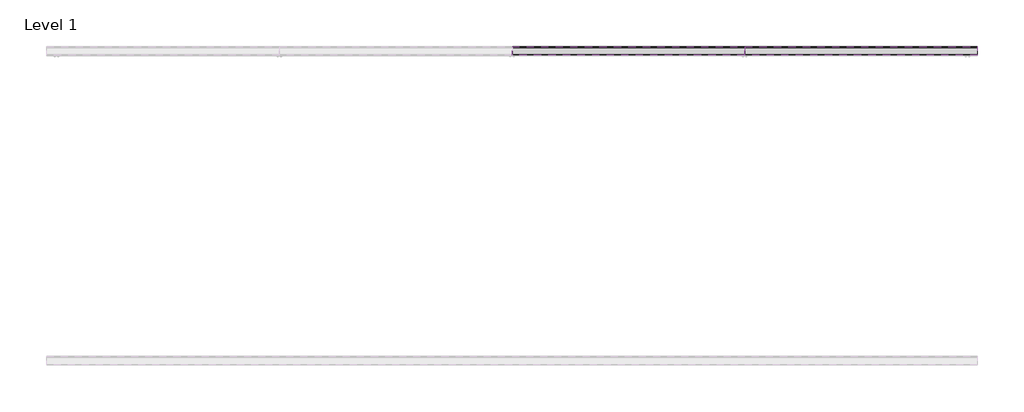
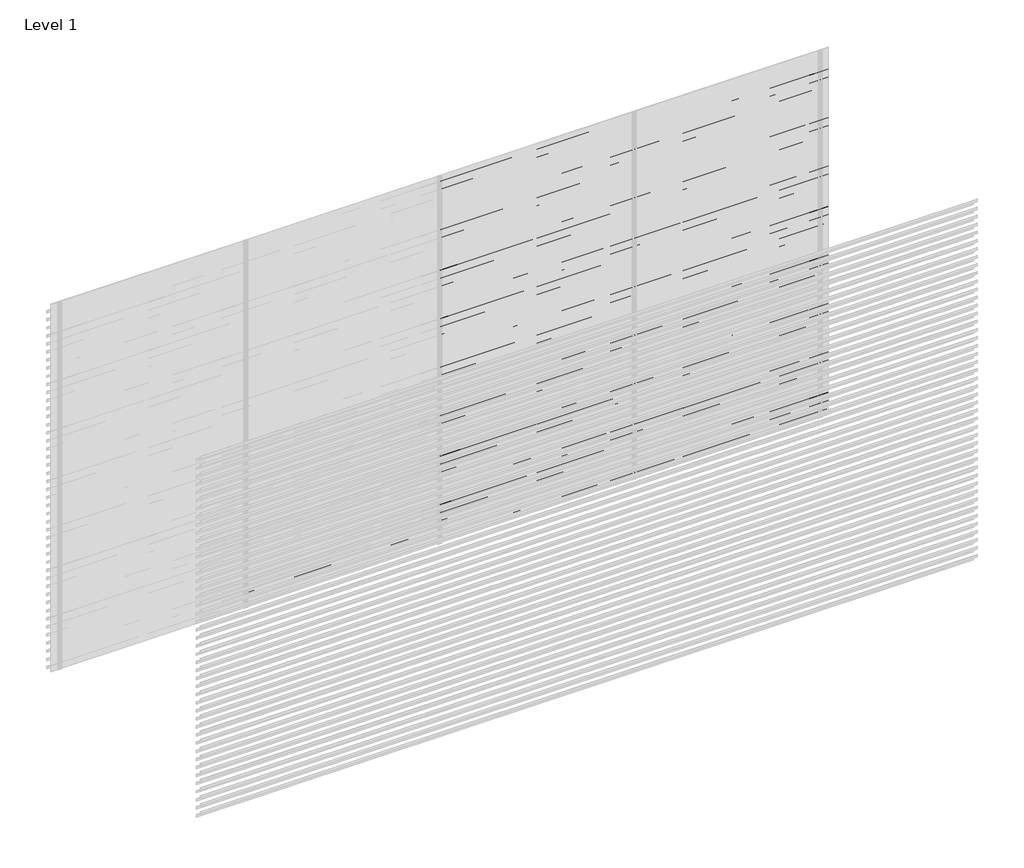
# One storey, part 25 of 25: 92 proxies.
"""IFC4 building model written with IfcOpenShell, lengths in millimetres."""

from ifc_helpers import new_model, si_unit, frame, origin, place, context, project, spatial, polyline, outline, extrude, element, save

model = new_model("IFC4")

# Units and contexts
model_context = context("Model", 3, world=origin())
ifc_project = project(units=[si_unit("LENGTHUNIT", "METRE", prefix="MILLI")], contexts=[model_context])

# Site, building, storey
site = spatial("IfcSite", under=ifc_project)
building = spatial("IfcBuilding", under=site)
storey = spatial("IfcBuildingStorey", under=building, Name="Level 1", Elevation=0.0)

# Proxies
placement = place(None, origin())
element("IfcBuildingElementProxy", 1, Name="Wall Sweeps", at=placement, inside=storey, context=model_context, shape_type="SweptSolid", body=[
    extrude(outline(polyline([(57.0, 75.5), (57.0, 55.5), (55.75, 56.2216933), (55.75, 74.7872415), (2.0, 112.3158044), (2.0, 132.0), (3.25, 132.0), (3.25, 113.0285629), (57.0, 75.5)])), frame((1500.0, 0.0, 0.0), z_axis=(1.0, 0.0, 0.0), x_axis=(0.0, 1.0, 0.0)), (0.0, 0.0, 1.0), 1500.0),
])
element("IfcBuildingElementProxy", 2, Name="Wall Sweeps", at=placement, inside=storey, context=model_context, shape_type="SweptSolid", body=[
    extrude(outline(polyline([(57.0, 9.5), (57.0, -10.5), (55.75, -9.7783067), (55.75, 8.7872415), (2.0, 46.3158044), (2.0, 66.0), (3.25, 66.0), (3.25, 47.0285629), (57.0, 9.5)])), frame((1500.0, 0.0, 0.0), z_axis=(1.0, 0.0, 0.0), x_axis=(0.0, 1.0, 0.0)), (0.0, 0.0, 1.0), 1500.0),
])
element("IfcBuildingElementProxy", 3, Name="Wall Sweeps", at=placement, inside=storey, context=model_context, shape_type="SweptSolid", body=[
    extrude(outline(polyline([(57.0, 2913.5), (57.0, 2893.5), (55.75, 2894.2216933), (55.75, 2912.7872415), (2.0, 2950.3158044), (2.0, 2970.0), (3.25, 2970.0), (3.25, 2951.0285629), (57.0, 2913.5)])), frame((3000.0, 0.0, 0.0), z_axis=(1.0, 0.0, 0.0), x_axis=(0.0, 1.0, 0.0)), (0.0, 0.0, 1.0), 1500.0),
])
element("IfcBuildingElementProxy", 4, Name="Wall Sweeps", at=placement, inside=storey, context=model_context, shape_type="SweptSolid", body=[
    extrude(outline(polyline([(57.0, 2847.5), (57.0, 2827.5), (55.75, 2828.2216933), (55.75, 2846.7872415), (2.0, 2884.3158044), (2.0, 2904.0), (3.25, 2904.0), (3.25, 2885.0285629), (57.0, 2847.5)])), frame((3000.0, 0.0, 0.0), z_axis=(1.0, 0.0, 0.0), x_axis=(0.0, 1.0, 0.0)), (0.0, 0.0, 1.0), 1500.0),
])
element("IfcBuildingElementProxy", 5, Name="Wall Sweeps", at=placement, inside=storey, context=model_context, shape_type="SweptSolid", body=[
    extrude(outline(polyline([(57.0, 2781.5), (57.0, 2761.5), (55.75, 2762.2216933), (55.75, 2780.7872415), (2.0, 2818.3158044), (2.0, 2838.0), (3.25, 2838.0), (3.25, 2819.0285629), (57.0, 2781.5)])), frame((3000.0, 0.0, 0.0), z_axis=(1.0, 0.0, 0.0), x_axis=(0.0, 1.0, 0.0)), (0.0, 0.0, 1.0), 1500.0),
])
element("IfcBuildingElementProxy", 6, Name="Wall Sweeps", at=placement, inside=storey, context=model_context, shape_type="SweptSolid", body=[
    extrude(outline(polyline([(57.0, 2715.5), (57.0, 2695.5), (55.75, 2696.2216933), (55.75, 2714.7872415), (2.0, 2752.3158044), (2.0, 2772.0), (3.25, 2772.0), (3.25, 2753.0285629), (57.0, 2715.5)])), frame((3000.0, 0.0, 0.0), z_axis=(1.0, 0.0, 0.0), x_axis=(0.0, 1.0, 0.0)), (0.0, 0.0, 1.0), 1500.0),
])
element("IfcBuildingElementProxy", 7, Name="Wall Sweeps", at=placement, inside=storey, context=model_context, shape_type="SweptSolid", body=[
    extrude(outline(polyline([(57.0, 2649.5), (57.0, 2629.5), (55.75, 2630.2216933), (55.75, 2648.7872415), (2.0, 2686.3158044), (2.0, 2706.0), (3.25, 2706.0), (3.25, 2687.0285629), (57.0, 2649.5)])), frame((3000.0, 0.0, 0.0), z_axis=(1.0, 0.0, 0.0), x_axis=(0.0, 1.0, 0.0)), (0.0, 0.0, 1.0), 1500.0),
])
element("IfcBuildingElementProxy", 8, Name="Wall Sweeps", at=placement, inside=storey, context=model_context, shape_type="SweptSolid", body=[
    extrude(outline(polyline([(57.0, 2583.5), (57.0, 2563.5), (55.75, 2564.2216933), (55.75, 2582.7872415), (2.0, 2620.3158044), (2.0, 2640.0), (3.25, 2640.0), (3.25, 2621.0285629), (57.0, 2583.5)])), frame((3000.0, 0.0, 0.0), z_axis=(1.0, 0.0, 0.0), x_axis=(0.0, 1.0, 0.0)), (0.0, 0.0, 1.0), 1500.0),
])
element("IfcBuildingElementProxy", 9, Name="Wall Sweeps", at=placement, inside=storey, context=model_context, shape_type="SweptSolid", body=[
    extrude(outline(polyline([(57.0, 2517.5), (57.0, 2497.5), (55.75, 2498.2216933), (55.75, 2516.7872415), (2.0, 2554.3158044), (2.0, 2574.0), (3.25, 2574.0), (3.25, 2555.0285629), (57.0, 2517.5)])), frame((3000.0, 0.0, 0.0), z_axis=(1.0, 0.0, 0.0), x_axis=(0.0, 1.0, 0.0)), (0.0, 0.0, 1.0), 1500.0),
])
element("IfcBuildingElementProxy", 10, Name="Wall Sweeps", at=placement, inside=storey, context=model_context, shape_type="SweptSolid", body=[
    extrude(outline(polyline([(57.0, 2451.5), (57.0, 2431.5), (55.75, 2432.2216933), (55.75, 2450.7872415), (2.0, 2488.3158044), (2.0, 2508.0), (3.25, 2508.0), (3.25, 2489.0285629), (57.0, 2451.5)])), frame((3000.0, 0.0, 0.0), z_axis=(1.0, 0.0, 0.0), x_axis=(0.0, 1.0, 0.0)), (0.0, 0.0, 1.0), 1500.0),
])
element("IfcBuildingElementProxy", 11, Name="Wall Sweeps", at=placement, inside=storey, context=model_context, shape_type="SweptSolid", body=[
    extrude(outline(polyline([(57.0, 2385.5), (57.0, 2365.5), (55.75, 2366.2216933), (55.75, 2384.7872415), (2.0, 2422.3158044), (2.0, 2442.0), (3.25, 2442.0), (3.25, 2423.0285629), (57.0, 2385.5)])), frame((3000.0, 0.0, 0.0), z_axis=(1.0, 0.0, 0.0), x_axis=(0.0, 1.0, 0.0)), (0.0, 0.0, 1.0), 1500.0),
])
element("IfcBuildingElementProxy", 12, Name="Wall Sweeps", at=placement, inside=storey, context=model_context, shape_type="SweptSolid", body=[
    extrude(outline(polyline([(57.0, 2319.5), (57.0, 2299.5), (55.75, 2300.2216933), (55.75, 2318.7872415), (2.0, 2356.3158044), (2.0, 2376.0), (3.25, 2376.0), (3.25, 2357.0285629), (57.0, 2319.5)])), frame((3000.0, 0.0, 0.0), z_axis=(1.0, 0.0, 0.0), x_axis=(0.0, 1.0, 0.0)), (0.0, 0.0, 1.0), 1500.0),
])
element("IfcBuildingElementProxy", 13, Name="Wall Sweeps", at=placement, inside=storey, context=model_context, shape_type="SweptSolid", body=[
    extrude(outline(polyline([(57.0, 2253.5), (57.0, 2233.5), (55.75, 2234.2216933), (55.75, 2252.7872415), (2.0, 2290.3158044), (2.0, 2310.0), (3.25, 2310.0), (3.25, 2291.0285629), (57.0, 2253.5)])), frame((3000.0, 0.0, 0.0), z_axis=(1.0, 0.0, 0.0), x_axis=(0.0, 1.0, 0.0)), (0.0, 0.0, 1.0), 1500.0),
])
element("IfcBuildingElementProxy", 14, Name="Wall Sweeps", at=placement, inside=storey, context=model_context, shape_type="SweptSolid", body=[
    extrude(outline(polyline([(57.0, 2187.5), (57.0, 2167.5), (55.75, 2168.2216933), (55.75, 2186.7872415), (2.0, 2224.3158044), (2.0, 2244.0), (3.25, 2244.0), (3.25, 2225.0285629), (57.0, 2187.5)])), frame((3000.0, 0.0, 0.0), z_axis=(1.0, 0.0, 0.0), x_axis=(0.0, 1.0, 0.0)), (0.0, 0.0, 1.0), 1500.0),
])
element("IfcBuildingElementProxy", 15, Name="Wall Sweeps", at=placement, inside=storey, context=model_context, shape_type="SweptSolid", body=[
    extrude(outline(polyline([(57.0, 2121.5), (57.0, 2101.5), (55.75, 2102.2216933), (55.75, 2120.7872415), (2.0, 2158.3158044), (2.0, 2178.0), (3.25, 2178.0), (3.25, 2159.0285629), (57.0, 2121.5)])), frame((3000.0, 0.0, 0.0), z_axis=(1.0, 0.0, 0.0), x_axis=(0.0, 1.0, 0.0)), (0.0, 0.0, 1.0), 1500.0),
])
element("IfcBuildingElementProxy", 16, Name="Wall Sweeps", at=placement, inside=storey, context=model_context, shape_type="SweptSolid", body=[
    extrude(outline(polyline([(57.0, 2055.5), (57.0, 2035.5), (55.75, 2036.2216933), (55.75, 2054.7872415), (2.0, 2092.3158044), (2.0, 2112.0), (3.25, 2112.0), (3.25, 2093.0285629), (57.0, 2055.5)])), frame((3000.0, 0.0, 0.0), z_axis=(1.0, 0.0, 0.0), x_axis=(0.0, 1.0, 0.0)), (0.0, 0.0, 1.0), 1500.0),
])
element("IfcBuildingElementProxy", 17, Name="Wall Sweeps", at=placement, inside=storey, context=model_context, shape_type="SweptSolid", body=[
    extrude(outline(polyline([(57.0, 1989.5), (57.0, 1969.5), (55.75, 1970.2216933), (55.75, 1988.7872415), (2.0, 2026.3158044), (2.0, 2046.0), (3.25, 2046.0), (3.25, 2027.0285629), (57.0, 1989.5)])), frame((3000.0, 0.0, 0.0), z_axis=(1.0, 0.0, 0.0), x_axis=(0.0, 1.0, 0.0)), (0.0, 0.0, 1.0), 1500.0),
])
element("IfcBuildingElementProxy", 18, Name="Wall Sweeps", at=placement, inside=storey, context=model_context, shape_type="SweptSolid", body=[
    extrude(outline(polyline([(57.0, 1923.5), (57.0, 1903.5), (55.75, 1904.2216933), (55.75, 1922.7872415), (2.0, 1960.3158044), (2.0, 1980.0), (3.25, 1980.0), (3.25, 1961.0285629), (57.0, 1923.5)])), frame((3000.0, 0.0, 0.0), z_axis=(1.0, 0.0, 0.0), x_axis=(0.0, 1.0, 0.0)), (0.0, 0.0, 1.0), 1500.0),
])
element("IfcBuildingElementProxy", 19, Name="Wall Sweeps", at=placement, inside=storey, context=model_context, shape_type="SweptSolid", body=[
    extrude(outline(polyline([(57.0, 1857.5), (57.0, 1837.5), (55.75, 1838.2216933), (55.75, 1856.7872415), (2.0, 1894.3158044), (2.0, 1914.0), (3.25, 1914.0), (3.25, 1895.0285629), (57.0, 1857.5)])), frame((3000.0, 0.0, 0.0), z_axis=(1.0, 0.0, 0.0), x_axis=(0.0, 1.0, 0.0)), (0.0, 0.0, 1.0), 1500.0),
])
element("IfcBuildingElementProxy", 20, Name="Wall Sweeps", at=placement, inside=storey, context=model_context, shape_type="SweptSolid", body=[
    extrude(outline(polyline([(57.0, 1791.5), (57.0, 1771.5), (55.75, 1772.2216933), (55.75, 1790.7872415), (2.0, 1828.3158044), (2.0, 1848.0), (3.25, 1848.0), (3.25, 1829.0285629), (57.0, 1791.5)])), frame((3000.0, 0.0, 0.0), z_axis=(1.0, 0.0, 0.0), x_axis=(0.0, 1.0, 0.0)), (0.0, 0.0, 1.0), 1500.0),
])
element("IfcBuildingElementProxy", 21, Name="Wall Sweeps", at=placement, inside=storey, context=model_context, shape_type="SweptSolid", body=[
    extrude(outline(polyline([(57.0, 1725.5), (57.0, 1705.5), (55.75, 1706.2216933), (55.75, 1724.7872415), (2.0, 1762.3158044), (2.0, 1782.0), (3.25, 1782.0), (3.25, 1763.0285629), (57.0, 1725.5)])), frame((3000.0, 0.0, 0.0), z_axis=(1.0, 0.0, 0.0), x_axis=(0.0, 1.0, 0.0)), (0.0, 0.0, 1.0), 1500.0),
])
element("IfcBuildingElementProxy", 22, Name="Wall Sweeps", at=placement, inside=storey, context=model_context, shape_type="SweptSolid", body=[
    extrude(outline(polyline([(57.0, 1659.5), (57.0, 1639.5), (55.75, 1640.2216933), (55.75, 1658.7872415), (2.0, 1696.3158044), (2.0, 1716.0), (3.25, 1716.0), (3.25, 1697.0285629), (57.0, 1659.5)])), frame((3000.0, 0.0, 0.0), z_axis=(1.0, 0.0, 0.0), x_axis=(0.0, 1.0, 0.0)), (0.0, 0.0, 1.0), 1500.0),
])
element("IfcBuildingElementProxy", 23, Name="Wall Sweeps", at=placement, inside=storey, context=model_context, shape_type="SweptSolid", body=[
    extrude(outline(polyline([(57.0, 1593.5), (57.0, 1573.5), (55.75, 1574.2216933), (55.75, 1592.7872415), (2.0, 1630.3158044), (2.0, 1650.0), (3.25, 1650.0), (3.25, 1631.0285629), (57.0, 1593.5)])), frame((3000.0, 0.0, 0.0), z_axis=(1.0, 0.0, 0.0), x_axis=(0.0, 1.0, 0.0)), (0.0, 0.0, 1.0), 1500.0),
])
element("IfcBuildingElementProxy", 24, Name="Wall Sweeps", at=placement, inside=storey, context=model_context, shape_type="SweptSolid", body=[
    extrude(outline(polyline([(57.0, 1527.5), (57.0, 1507.5), (55.75, 1508.2216933), (55.75, 1526.7872415), (2.0, 1564.3158044), (2.0, 1584.0), (3.25, 1584.0), (3.25, 1565.0285629), (57.0, 1527.5)])), frame((3000.0, 0.0, 0.0), z_axis=(1.0, 0.0, 0.0), x_axis=(0.0, 1.0, 0.0)), (0.0, 0.0, 1.0), 1500.0),
])
element("IfcBuildingElementProxy", 25, Name="Wall Sweeps", at=placement, inside=storey, context=model_context, shape_type="SweptSolid", body=[
    extrude(outline(polyline([(57.0, 1461.5), (57.0, 1441.5), (55.75, 1442.2216933), (55.75, 1460.7872415), (2.0, 1498.3158044), (2.0, 1518.0), (3.25, 1518.0), (3.25, 1499.0285629), (57.0, 1461.5)])), frame((3000.0, 0.0, 0.0), z_axis=(1.0, 0.0, 0.0), x_axis=(0.0, 1.0, 0.0)), (0.0, 0.0, 1.0), 1500.0),
])
element("IfcBuildingElementProxy", 26, Name="Wall Sweeps", at=placement, inside=storey, context=model_context, shape_type="SweptSolid", body=[
    extrude(outline(polyline([(57.0, 1395.5), (57.0, 1375.5), (55.75, 1376.2216933), (55.75, 1394.7872415), (2.0, 1432.3158044), (2.0, 1452.0), (3.25, 1452.0), (3.25, 1433.0285629), (57.0, 1395.5)])), frame((3000.0, 0.0, 0.0), z_axis=(1.0, 0.0, 0.0), x_axis=(0.0, 1.0, 0.0)), (0.0, 0.0, 1.0), 1500.0),
])
element("IfcBuildingElementProxy", 27, Name="Wall Sweeps", at=placement, inside=storey, context=model_context, shape_type="SweptSolid", body=[
    extrude(outline(polyline([(57.0, 1329.5), (57.0, 1309.5), (55.75, 1310.2216933), (55.75, 1328.7872415), (2.0, 1366.3158044), (2.0, 1386.0), (3.25, 1386.0), (3.25, 1367.0285629), (57.0, 1329.5)])), frame((3000.0, 0.0, 0.0), z_axis=(1.0, 0.0, 0.0), x_axis=(0.0, 1.0, 0.0)), (0.0, 0.0, 1.0), 1500.0),
])
element("IfcBuildingElementProxy", 28, Name="Wall Sweeps", at=placement, inside=storey, context=model_context, shape_type="SweptSolid", body=[
    extrude(outline(polyline([(57.0, 1263.5), (57.0, 1243.5), (55.75, 1244.2216933), (55.75, 1262.7872415), (2.0, 1300.3158044), (2.0, 1320.0), (3.25, 1320.0), (3.25, 1301.0285629), (57.0, 1263.5)])), frame((3000.0, 0.0, 0.0), z_axis=(1.0, 0.0, 0.0), x_axis=(0.0, 1.0, 0.0)), (0.0, 0.0, 1.0), 1500.0),
])
element("IfcBuildingElementProxy", 29, Name="Wall Sweeps", at=placement, inside=storey, context=model_context, shape_type="SweptSolid", body=[
    extrude(outline(polyline([(57.0, 1197.5), (57.0, 1177.5), (55.75, 1178.2216933), (55.75, 1196.7872415), (2.0, 1234.3158044), (2.0, 1254.0), (3.25, 1254.0), (3.25, 1235.0285629), (57.0, 1197.5)])), frame((3000.0, 0.0, 0.0), z_axis=(1.0, 0.0, 0.0), x_axis=(0.0, 1.0, 0.0)), (0.0, 0.0, 1.0), 1500.0),
])
element("IfcBuildingElementProxy", 30, Name="Wall Sweeps", at=placement, inside=storey, context=model_context, shape_type="SweptSolid", body=[
    extrude(outline(polyline([(57.0, 1131.5), (57.0, 1111.5), (55.75, 1112.2216933), (55.75, 1130.7872415), (2.0, 1168.3158044), (2.0, 1188.0), (3.25, 1188.0), (3.25, 1169.0285629), (57.0, 1131.5)])), frame((3000.0, 0.0, 0.0), z_axis=(1.0, 0.0, 0.0), x_axis=(0.0, 1.0, 0.0)), (0.0, 0.0, 1.0), 1500.0),
])
element("IfcBuildingElementProxy", 31, Name="Wall Sweeps", at=placement, inside=storey, context=model_context, shape_type="SweptSolid", body=[
    extrude(outline(polyline([(57.0, 1065.5), (57.0, 1045.5), (55.75, 1046.2216933), (55.75, 1064.7872415), (2.0, 1102.3158044), (2.0, 1122.0), (3.25, 1122.0), (3.25, 1103.0285629), (57.0, 1065.5)])), frame((3000.0, 0.0, 0.0), z_axis=(1.0, 0.0, 0.0), x_axis=(0.0, 1.0, 0.0)), (0.0, 0.0, 1.0), 1500.0),
])
element("IfcBuildingElementProxy", 32, Name="Wall Sweeps", at=placement, inside=storey, context=model_context, shape_type="SweptSolid", body=[
    extrude(outline(polyline([(57.0, 999.5), (57.0, 979.5), (55.75, 980.2216933), (55.75, 998.7872415), (2.0, 1036.3158044), (2.0, 1056.0), (3.25, 1056.0), (3.25, 1037.0285629), (57.0, 999.5)])), frame((3000.0, 0.0, 0.0), z_axis=(1.0, 0.0, 0.0), x_axis=(0.0, 1.0, 0.0)), (0.0, 0.0, 1.0), 1500.0),
])
element("IfcBuildingElementProxy", 33, Name="Wall Sweeps", at=placement, inside=storey, context=model_context, shape_type="SweptSolid", body=[
    extrude(outline(polyline([(57.0, 933.5), (57.0, 913.5), (55.75, 914.2216933), (55.75, 932.7872415), (2.0, 970.3158044), (2.0, 990.0), (3.25, 990.0), (3.25, 971.0285629), (57.0, 933.5)])), frame((3000.0, 0.0, 0.0), z_axis=(1.0, 0.0, 0.0), x_axis=(0.0, 1.0, 0.0)), (0.0, 0.0, 1.0), 1500.0),
])
element("IfcBuildingElementProxy", 34, Name="Wall Sweeps", at=placement, inside=storey, context=model_context, shape_type="SweptSolid", body=[
    extrude(outline(polyline([(57.0, 867.5), (57.0, 847.5), (55.75, 848.2216933), (55.75, 866.7872415), (2.0, 904.3158044), (2.0, 924.0), (3.25, 924.0), (3.25, 905.0285629), (57.0, 867.5)])), frame((3000.0, 0.0, 0.0), z_axis=(1.0, 0.0, 0.0), x_axis=(0.0, 1.0, 0.0)), (0.0, 0.0, 1.0), 1500.0),
])
element("IfcBuildingElementProxy", 35, Name="Wall Sweeps", at=placement, inside=storey, context=model_context, shape_type="SweptSolid", body=[
    extrude(outline(polyline([(57.0, 801.5), (57.0, 781.5), (55.75, 782.2216933), (55.75, 800.7872415), (2.0, 838.3158044), (2.0, 858.0), (3.25, 858.0), (3.25, 839.0285629), (57.0, 801.5)])), frame((3000.0, 0.0, 0.0), z_axis=(1.0, 0.0, 0.0), x_axis=(0.0, 1.0, 0.0)), (0.0, 0.0, 1.0), 1500.0),
])
element("IfcBuildingElementProxy", 36, Name="Wall Sweeps", at=placement, inside=storey, context=model_context, shape_type="SweptSolid", body=[
    extrude(outline(polyline([(57.0, 735.5), (57.0, 715.5), (55.75, 716.2216933), (55.75, 734.7872415), (2.0, 772.3158044), (2.0, 792.0), (3.25, 792.0), (3.25, 773.0285629), (57.0, 735.5)])), frame((3000.0, 0.0, 0.0), z_axis=(1.0, 0.0, 0.0), x_axis=(0.0, 1.0, 0.0)), (0.0, 0.0, 1.0), 1500.0),
])
element("IfcBuildingElementProxy", 37, Name="Wall Sweeps", at=placement, inside=storey, context=model_context, shape_type="SweptSolid", body=[
    extrude(outline(polyline([(57.0, 669.5), (57.0, 649.5), (55.75, 650.2216933), (55.75, 668.7872415), (2.0, 706.3158044), (2.0, 726.0), (3.25, 726.0), (3.25, 707.0285629), (57.0, 669.5)])), frame((3000.0, 0.0, 0.0), z_axis=(1.0, 0.0, 0.0), x_axis=(0.0, 1.0, 0.0)), (0.0, 0.0, 1.0), 1500.0),
])
element("IfcBuildingElementProxy", 38, Name="Wall Sweeps", at=placement, inside=storey, context=model_context, shape_type="SweptSolid", body=[
    extrude(outline(polyline([(57.0, 603.5), (57.0, 583.5), (55.75, 584.2216933), (55.75, 602.7872415), (2.0, 640.3158044), (2.0, 660.0), (3.25, 660.0), (3.25, 641.0285629), (57.0, 603.5)])), frame((3000.0, 0.0, 0.0), z_axis=(1.0, 0.0, 0.0), x_axis=(0.0, 1.0, 0.0)), (0.0, 0.0, 1.0), 1500.0),
])
element("IfcBuildingElementProxy", 39, Name="Wall Sweeps", at=placement, inside=storey, context=model_context, shape_type="SweptSolid", body=[
    extrude(outline(polyline([(57.0, 537.5), (57.0, 517.5), (55.75, 518.2216933), (55.75, 536.7872415), (2.0, 574.3158044), (2.0, 594.0), (3.25, 594.0), (3.25, 575.0285629), (57.0, 537.5)])), frame((3000.0, 0.0, 0.0), z_axis=(1.0, 0.0, 0.0), x_axis=(0.0, 1.0, 0.0)), (0.0, 0.0, 1.0), 1500.0),
])
element("IfcBuildingElementProxy", 40, Name="Wall Sweeps", at=placement, inside=storey, context=model_context, shape_type="SweptSolid", body=[
    extrude(outline(polyline([(57.0, 471.5), (57.0, 451.5), (55.75, 452.2216933), (55.75, 470.7872415), (2.0, 508.3158044), (2.0, 528.0), (3.25, 528.0), (3.25, 509.0285629), (57.0, 471.5)])), frame((3000.0, 0.0, 0.0), z_axis=(1.0, 0.0, 0.0), x_axis=(0.0, 1.0, 0.0)), (0.0, 0.0, 1.0), 1500.0),
])
element("IfcBuildingElementProxy", 41, Name="Wall Sweeps", at=placement, inside=storey, context=model_context, shape_type="SweptSolid", body=[
    extrude(outline(polyline([(57.0, 405.5), (57.0, 385.5), (55.75, 386.2216933), (55.75, 404.7872415), (2.0, 442.3158044), (2.0, 462.0), (3.25, 462.0), (3.25, 443.0285629), (57.0, 405.5)])), frame((3000.0, 0.0, 0.0), z_axis=(1.0, 0.0, 0.0), x_axis=(0.0, 1.0, 0.0)), (0.0, 0.0, 1.0), 1500.0),
])
element("IfcBuildingElementProxy", 42, Name="Wall Sweeps", at=placement, inside=storey, context=model_context, shape_type="SweptSolid", body=[
    extrude(outline(polyline([(57.0, 339.5), (57.0, 319.5), (55.75, 320.2216933), (55.75, 338.7872415), (2.0, 376.3158044), (2.0, 396.0), (3.25, 396.0), (3.25, 377.0285629), (57.0, 339.5)])), frame((3000.0, 0.0, 0.0), z_axis=(1.0, 0.0, 0.0), x_axis=(0.0, 1.0, 0.0)), (0.0, 0.0, 1.0), 1500.0),
])
element("IfcBuildingElementProxy", 43, Name="Wall Sweeps", at=placement, inside=storey, context=model_context, shape_type="SweptSolid", body=[
    extrude(outline(polyline([(57.0, 273.5), (57.0, 253.5), (55.75, 254.2216933), (55.75, 272.7872415), (2.0, 310.3158044), (2.0, 330.0), (3.25, 330.0), (3.25, 311.0285629), (57.0, 273.5)])), frame((3000.0, 0.0, 0.0), z_axis=(1.0, 0.0, 0.0), x_axis=(0.0, 1.0, 0.0)), (0.0, 0.0, 1.0), 1500.0),
])
element("IfcBuildingElementProxy", 44, Name="Wall Sweeps", at=placement, inside=storey, context=model_context, shape_type="SweptSolid", body=[
    extrude(outline(polyline([(57.0, 207.5), (57.0, 187.5), (55.75, 188.2216933), (55.75, 206.7872415), (2.0, 244.3158044), (2.0, 264.0), (3.25, 264.0), (3.25, 245.0285629), (57.0, 207.5)])), frame((3000.0, 0.0, 0.0), z_axis=(1.0, 0.0, 0.0), x_axis=(0.0, 1.0, 0.0)), (0.0, 0.0, 1.0), 1500.0),
])
element("IfcBuildingElementProxy", 45, Name="Wall Sweeps", at=placement, inside=storey, context=model_context, shape_type="SweptSolid", body=[
    extrude(outline(polyline([(57.0, 141.5), (57.0, 121.5), (55.75, 122.2216933), (55.75, 140.7872415), (2.0, 178.3158044), (2.0, 198.0), (3.25, 198.0), (3.25, 179.0285629), (57.0, 141.5)])), frame((3000.0, 0.0, 0.0), z_axis=(1.0, 0.0, 0.0), x_axis=(0.0, 1.0, 0.0)), (0.0, 0.0, 1.0), 1500.0),
])
element("IfcBuildingElementProxy", 46, Name="Wall Sweeps", at=placement, inside=storey, context=model_context, shape_type="SweptSolid", body=[
    extrude(outline(polyline([(57.0, 75.5), (57.0, 55.5), (55.75, 56.2216933), (55.75, 74.7872415), (2.0, 112.3158044), (2.0, 132.0), (3.25, 132.0), (3.25, 113.0285629), (57.0, 75.5)])), frame((3000.0, 0.0, 0.0), z_axis=(1.0, 0.0, 0.0), x_axis=(0.0, 1.0, 0.0)), (0.0, 0.0, 1.0), 1500.0),
])
element("IfcBuildingElementProxy", 47, Name="Wall Sweeps", at=placement, inside=storey, context=model_context, shape_type="SweptSolid", body=[
    extrude(outline(polyline([(57.0, 9.5), (57.0, -10.5), (55.75, -9.7783067), (55.75, 8.7872415), (2.0, 46.3158044), (2.0, 66.0), (3.25, 66.0), (3.25, 47.0285629), (57.0, 9.5)])), frame((3000.0, 0.0, 0.0), z_axis=(1.0, 0.0, 0.0), x_axis=(0.0, 1.0, 0.0)), (0.0, 0.0, 1.0), 1500.0),
])
element("IfcBuildingElementProxy", 48, Name="Wall Sweeps", at=placement, inside=storey, context=model_context, shape_type="SweptSolid", body=[
    extrude(outline(polyline([(57.0, 2913.5), (57.0, 2893.5), (55.75, 2894.2216933), (55.75, 2912.7872415), (2.0, 2950.3158044), (2.0, 2970.0), (3.25, 2970.0), (3.25, 2951.0285629), (57.0, 2913.5)])), frame((4500.0, 0.0, 0.0), z_axis=(1.0, 0.0, 0.0), x_axis=(0.0, 1.0, 0.0)), (0.0, 0.0, 1.0), 1500.0),
])
element("IfcBuildingElementProxy", 49, Name="Wall Sweeps", at=placement, inside=storey, context=model_context, shape_type="SweptSolid", body=[
    extrude(outline(polyline([(57.0, 2847.5), (57.0, 2827.5), (55.75, 2828.2216933), (55.75, 2846.7872415), (2.0, 2884.3158044), (2.0, 2904.0), (3.25, 2904.0), (3.25, 2885.0285629), (57.0, 2847.5)])), frame((4500.0, 0.0, 0.0), z_axis=(1.0, 0.0, 0.0), x_axis=(0.0, 1.0, 0.0)), (0.0, 0.0, 1.0), 1500.0),
])
element("IfcBuildingElementProxy", 50, Name="Wall Sweeps", at=placement, inside=storey, context=model_context, shape_type="SweptSolid", body=[
    extrude(outline(polyline([(57.0, 2781.5), (57.0, 2761.5), (55.75, 2762.2216933), (55.75, 2780.7872415), (2.0, 2818.3158044), (2.0, 2838.0), (3.25, 2838.0), (3.25, 2819.0285629), (57.0, 2781.5)])), frame((4500.0, 0.0, 0.0), z_axis=(1.0, 0.0, 0.0), x_axis=(0.0, 1.0, 0.0)), (0.0, 0.0, 1.0), 1500.0),
])
element("IfcBuildingElementProxy", 51, Name="Wall Sweeps", at=placement, inside=storey, context=model_context, shape_type="SweptSolid", body=[
    extrude(outline(polyline([(57.0, 2715.5), (57.0, 2695.5), (55.75, 2696.2216933), (55.75, 2714.7872415), (2.0, 2752.3158044), (2.0, 2772.0), (3.25, 2772.0), (3.25, 2753.0285629), (57.0, 2715.5)])), frame((4500.0, 0.0, 0.0), z_axis=(1.0, 0.0, 0.0), x_axis=(0.0, 1.0, 0.0)), (0.0, 0.0, 1.0), 1500.0),
])
element("IfcBuildingElementProxy", 52, Name="Wall Sweeps", at=placement, inside=storey, context=model_context, shape_type="SweptSolid", body=[
    extrude(outline(polyline([(57.0, 2649.5), (57.0, 2629.5), (55.75, 2630.2216933), (55.75, 2648.7872415), (2.0, 2686.3158044), (2.0, 2706.0), (3.25, 2706.0), (3.25, 2687.0285629), (57.0, 2649.5)])), frame((4500.0, 0.0, 0.0), z_axis=(1.0, 0.0, 0.0), x_axis=(0.0, 1.0, 0.0)), (0.0, 0.0, 1.0), 1500.0),
])
element("IfcBuildingElementProxy", 53, Name="Wall Sweeps", at=placement, inside=storey, context=model_context, shape_type="SweptSolid", body=[
    extrude(outline(polyline([(57.0, 2583.5), (57.0, 2563.5), (55.75, 2564.2216933), (55.75, 2582.7872415), (2.0, 2620.3158044), (2.0, 2640.0), (3.25, 2640.0), (3.25, 2621.0285629), (57.0, 2583.5)])), frame((4500.0, 0.0, 0.0), z_axis=(1.0, 0.0, 0.0), x_axis=(0.0, 1.0, 0.0)), (0.0, 0.0, 1.0), 1500.0),
])
element("IfcBuildingElementProxy", 54, Name="Wall Sweeps", at=placement, inside=storey, context=model_context, shape_type="SweptSolid", body=[
    extrude(outline(polyline([(57.0, 2517.5), (57.0, 2497.5), (55.75, 2498.2216933), (55.75, 2516.7872415), (2.0, 2554.3158044), (2.0, 2574.0), (3.25, 2574.0), (3.25, 2555.0285629), (57.0, 2517.5)])), frame((4500.0, 0.0, 0.0), z_axis=(1.0, 0.0, 0.0), x_axis=(0.0, 1.0, 0.0)), (0.0, 0.0, 1.0), 1500.0),
])
element("IfcBuildingElementProxy", 55, Name="Wall Sweeps", at=placement, inside=storey, context=model_context, shape_type="SweptSolid", body=[
    extrude(outline(polyline([(57.0, 2451.5), (57.0, 2431.5), (55.75, 2432.2216933), (55.75, 2450.7872415), (2.0, 2488.3158044), (2.0, 2508.0), (3.25, 2508.0), (3.25, 2489.0285629), (57.0, 2451.5)])), frame((4500.0, 0.0, 0.0), z_axis=(1.0, 0.0, 0.0), x_axis=(0.0, 1.0, 0.0)), (0.0, 0.0, 1.0), 1500.0),
])
element("IfcBuildingElementProxy", 56, Name="Wall Sweeps", at=placement, inside=storey, context=model_context, shape_type="SweptSolid", body=[
    extrude(outline(polyline([(57.0, 2385.5), (57.0, 2365.5), (55.75, 2366.2216933), (55.75, 2384.7872415), (2.0, 2422.3158044), (2.0, 2442.0), (3.25, 2442.0), (3.25, 2423.0285629), (57.0, 2385.5)])), frame((4500.0, 0.0, 0.0), z_axis=(1.0, 0.0, 0.0), x_axis=(0.0, 1.0, 0.0)), (0.0, 0.0, 1.0), 1500.0),
])
element("IfcBuildingElementProxy", 57, Name="Wall Sweeps", at=placement, inside=storey, context=model_context, shape_type="SweptSolid", body=[
    extrude(outline(polyline([(57.0, 2319.5), (57.0, 2299.5), (55.75, 2300.2216933), (55.75, 2318.7872415), (2.0, 2356.3158044), (2.0, 2376.0), (3.25, 2376.0), (3.25, 2357.0285629), (57.0, 2319.5)])), frame((4500.0, 0.0, 0.0), z_axis=(1.0, 0.0, 0.0), x_axis=(0.0, 1.0, 0.0)), (0.0, 0.0, 1.0), 1500.0),
])
element("IfcBuildingElementProxy", 58, Name="Wall Sweeps", at=placement, inside=storey, context=model_context, shape_type="SweptSolid", body=[
    extrude(outline(polyline([(57.0, 2253.5), (57.0, 2233.5), (55.75, 2234.2216933), (55.75, 2252.7872415), (2.0, 2290.3158044), (2.0, 2310.0), (3.25, 2310.0), (3.25, 2291.0285629), (57.0, 2253.5)])), frame((4500.0, 0.0, 0.0), z_axis=(1.0, 0.0, 0.0), x_axis=(0.0, 1.0, 0.0)), (0.0, 0.0, 1.0), 1500.0),
])
element("IfcBuildingElementProxy", 59, Name="Wall Sweeps", at=placement, inside=storey, context=model_context, shape_type="SweptSolid", body=[
    extrude(outline(polyline([(57.0, 2187.5), (57.0, 2167.5), (55.75, 2168.2216933), (55.75, 2186.7872415), (2.0, 2224.3158044), (2.0, 2244.0), (3.25, 2244.0), (3.25, 2225.0285629), (57.0, 2187.5)])), frame((4500.0, 0.0, 0.0), z_axis=(1.0, 0.0, 0.0), x_axis=(0.0, 1.0, 0.0)), (0.0, 0.0, 1.0), 1500.0),
])
element("IfcBuildingElementProxy", 60, Name="Wall Sweeps", at=placement, inside=storey, context=model_context, shape_type="SweptSolid", body=[
    extrude(outline(polyline([(57.0, 2121.5), (57.0, 2101.5), (55.75, 2102.2216933), (55.75, 2120.7872415), (2.0, 2158.3158044), (2.0, 2178.0), (3.25, 2178.0), (3.25, 2159.0285629), (57.0, 2121.5)])), frame((4500.0, 0.0, 0.0), z_axis=(1.0, 0.0, 0.0), x_axis=(0.0, 1.0, 0.0)), (0.0, 0.0, 1.0), 1500.0),
])
element("IfcBuildingElementProxy", 61, Name="Wall Sweeps", at=placement, inside=storey, context=model_context, shape_type="SweptSolid", body=[
    extrude(outline(polyline([(57.0, 2055.5), (57.0, 2035.5), (55.75, 2036.2216933), (55.75, 2054.7872415), (2.0, 2092.3158044), (2.0, 2112.0), (3.25, 2112.0), (3.25, 2093.0285629), (57.0, 2055.5)])), frame((4500.0, 0.0, 0.0), z_axis=(1.0, 0.0, 0.0), x_axis=(0.0, 1.0, 0.0)), (0.0, 0.0, 1.0), 1500.0),
])
element("IfcBuildingElementProxy", 62, Name="Wall Sweeps", at=placement, inside=storey, context=model_context, shape_type="SweptSolid", body=[
    extrude(outline(polyline([(57.0, 1989.5), (57.0, 1969.5), (55.75, 1970.2216933), (55.75, 1988.7872415), (2.0, 2026.3158044), (2.0, 2046.0), (3.25, 2046.0), (3.25, 2027.0285629), (57.0, 1989.5)])), frame((4500.0, 0.0, 0.0), z_axis=(1.0, 0.0, 0.0), x_axis=(0.0, 1.0, 0.0)), (0.0, 0.0, 1.0), 1500.0),
])
element("IfcBuildingElementProxy", 63, Name="Wall Sweeps", at=placement, inside=storey, context=model_context, shape_type="SweptSolid", body=[
    extrude(outline(polyline([(57.0, 1923.5), (57.0, 1903.5), (55.75, 1904.2216933), (55.75, 1922.7872415), (2.0, 1960.3158044), (2.0, 1980.0), (3.25, 1980.0), (3.25, 1961.0285629), (57.0, 1923.5)])), frame((4500.0, 0.0, 0.0), z_axis=(1.0, 0.0, 0.0), x_axis=(0.0, 1.0, 0.0)), (0.0, 0.0, 1.0), 1500.0),
])
element("IfcBuildingElementProxy", 64, Name="Wall Sweeps", at=placement, inside=storey, context=model_context, shape_type="SweptSolid", body=[
    extrude(outline(polyline([(57.0, 1857.5), (57.0, 1837.5), (55.75, 1838.2216933), (55.75, 1856.7872415), (2.0, 1894.3158044), (2.0, 1914.0), (3.25, 1914.0), (3.25, 1895.0285629), (57.0, 1857.5)])), frame((4500.0, 0.0, 0.0), z_axis=(1.0, 0.0, 0.0), x_axis=(0.0, 1.0, 0.0)), (0.0, 0.0, 1.0), 1500.0),
])
element("IfcBuildingElementProxy", 65, Name="Wall Sweeps", at=placement, inside=storey, context=model_context, shape_type="SweptSolid", body=[
    extrude(outline(polyline([(57.0, 1791.5), (57.0, 1771.5), (55.75, 1772.2216933), (55.75, 1790.7872415), (2.0, 1828.3158044), (2.0, 1848.0), (3.25, 1848.0), (3.25, 1829.0285629), (57.0, 1791.5)])), frame((4500.0, 0.0, 0.0), z_axis=(1.0, 0.0, 0.0), x_axis=(0.0, 1.0, 0.0)), (0.0, 0.0, 1.0), 1500.0),
])
element("IfcBuildingElementProxy", 66, Name="Wall Sweeps", at=placement, inside=storey, context=model_context, shape_type="SweptSolid", body=[
    extrude(outline(polyline([(57.0, 1725.5), (57.0, 1705.5), (55.75, 1706.2216933), (55.75, 1724.7872415), (2.0, 1762.3158044), (2.0, 1782.0), (3.25, 1782.0), (3.25, 1763.0285629), (57.0, 1725.5)])), frame((4500.0, 0.0, 0.0), z_axis=(1.0, 0.0, 0.0), x_axis=(0.0, 1.0, 0.0)), (0.0, 0.0, 1.0), 1500.0),
])
element("IfcBuildingElementProxy", 67, Name="Wall Sweeps", at=placement, inside=storey, context=model_context, shape_type="SweptSolid", body=[
    extrude(outline(polyline([(57.0, 1659.5), (57.0, 1639.5), (55.75, 1640.2216933), (55.75, 1658.7872415), (2.0, 1696.3158044), (2.0, 1716.0), (3.25, 1716.0), (3.25, 1697.0285629), (57.0, 1659.5)])), frame((4500.0, 0.0, 0.0), z_axis=(1.0, 0.0, 0.0), x_axis=(0.0, 1.0, 0.0)), (0.0, 0.0, 1.0), 1500.0),
])
element("IfcBuildingElementProxy", 68, Name="Wall Sweeps", at=placement, inside=storey, context=model_context, shape_type="SweptSolid", body=[
    extrude(outline(polyline([(57.0, 1593.5), (57.0, 1573.5), (55.75, 1574.2216933), (55.75, 1592.7872415), (2.0, 1630.3158044), (2.0, 1650.0), (3.25, 1650.0), (3.25, 1631.0285629), (57.0, 1593.5)])), frame((4500.0, 0.0, 0.0), z_axis=(1.0, 0.0, 0.0), x_axis=(0.0, 1.0, 0.0)), (0.0, 0.0, 1.0), 1500.0),
])
element("IfcBuildingElementProxy", 69, Name="Wall Sweeps", at=placement, inside=storey, context=model_context, shape_type="SweptSolid", body=[
    extrude(outline(polyline([(57.0, 1527.5), (57.0, 1507.5), (55.75, 1508.2216933), (55.75, 1526.7872415), (2.0, 1564.3158044), (2.0, 1584.0), (3.25, 1584.0), (3.25, 1565.0285629), (57.0, 1527.5)])), frame((4500.0, 0.0, 0.0), z_axis=(1.0, 0.0, 0.0), x_axis=(0.0, 1.0, 0.0)), (0.0, 0.0, 1.0), 1500.0),
])
element("IfcBuildingElementProxy", 70, Name="Wall Sweeps", at=placement, inside=storey, context=model_context, shape_type="SweptSolid", body=[
    extrude(outline(polyline([(57.0, 1461.5), (57.0, 1441.5), (55.75, 1442.2216933), (55.75, 1460.7872415), (2.0, 1498.3158044), (2.0, 1518.0), (3.25, 1518.0), (3.25, 1499.0285629), (57.0, 1461.5)])), frame((4500.0, 0.0, 0.0), z_axis=(1.0, 0.0, 0.0), x_axis=(0.0, 1.0, 0.0)), (0.0, 0.0, 1.0), 1500.0),
])
element("IfcBuildingElementProxy", 71, Name="Wall Sweeps", at=placement, inside=storey, context=model_context, shape_type="SweptSolid", body=[
    extrude(outline(polyline([(57.0, 1395.5), (57.0, 1375.5), (55.75, 1376.2216933), (55.75, 1394.7872415), (2.0, 1432.3158044), (2.0, 1452.0), (3.25, 1452.0), (3.25, 1433.0285629), (57.0, 1395.5)])), frame((4500.0, 0.0, 0.0), z_axis=(1.0, 0.0, 0.0), x_axis=(0.0, 1.0, 0.0)), (0.0, 0.0, 1.0), 1500.0),
])
element("IfcBuildingElementProxy", 72, Name="Wall Sweeps", at=placement, inside=storey, context=model_context, shape_type="SweptSolid", body=[
    extrude(outline(polyline([(57.0, 1329.5), (57.0, 1309.5), (55.75, 1310.2216933), (55.75, 1328.7872415), (2.0, 1366.3158044), (2.0, 1386.0), (3.25, 1386.0), (3.25, 1367.0285629), (57.0, 1329.5)])), frame((4500.0, 0.0, 0.0), z_axis=(1.0, 0.0, 0.0), x_axis=(0.0, 1.0, 0.0)), (0.0, 0.0, 1.0), 1500.0),
])
element("IfcBuildingElementProxy", 73, Name="Wall Sweeps", at=placement, inside=storey, context=model_context, shape_type="SweptSolid", body=[
    extrude(outline(polyline([(57.0, 1263.5), (57.0, 1243.5), (55.75, 1244.2216933), (55.75, 1262.7872415), (2.0, 1300.3158044), (2.0, 1320.0), (3.25, 1320.0), (3.25, 1301.0285629), (57.0, 1263.5)])), frame((4500.0, 0.0, 0.0), z_axis=(1.0, 0.0, 0.0), x_axis=(0.0, 1.0, 0.0)), (0.0, 0.0, 1.0), 1500.0),
])
element("IfcBuildingElementProxy", 74, Name="Wall Sweeps", at=placement, inside=storey, context=model_context, shape_type="SweptSolid", body=[
    extrude(outline(polyline([(57.0, 1197.5), (57.0, 1177.5), (55.75, 1178.2216933), (55.75, 1196.7872415), (2.0, 1234.3158044), (2.0, 1254.0), (3.25, 1254.0), (3.25, 1235.0285629), (57.0, 1197.5)])), frame((4500.0, 0.0, 0.0), z_axis=(1.0, 0.0, 0.0), x_axis=(0.0, 1.0, 0.0)), (0.0, 0.0, 1.0), 1500.0),
])
element("IfcBuildingElementProxy", 75, Name="Wall Sweeps", at=placement, inside=storey, context=model_context, shape_type="SweptSolid", body=[
    extrude(outline(polyline([(57.0, 1131.5), (57.0, 1111.5), (55.75, 1112.2216933), (55.75, 1130.7872415), (2.0, 1168.3158044), (2.0, 1188.0), (3.25, 1188.0), (3.25, 1169.0285629), (57.0, 1131.5)])), frame((4500.0, 0.0, 0.0), z_axis=(1.0, 0.0, 0.0), x_axis=(0.0, 1.0, 0.0)), (0.0, 0.0, 1.0), 1500.0),
])
element("IfcBuildingElementProxy", 76, Name="Wall Sweeps", at=placement, inside=storey, context=model_context, shape_type="SweptSolid", body=[
    extrude(outline(polyline([(57.0, 1065.5), (57.0, 1045.5), (55.75, 1046.2216933), (55.75, 1064.7872415), (2.0, 1102.3158044), (2.0, 1122.0), (3.25, 1122.0), (3.25, 1103.0285629), (57.0, 1065.5)])), frame((4500.0, 0.0, 0.0), z_axis=(1.0, 0.0, 0.0), x_axis=(0.0, 1.0, 0.0)), (0.0, 0.0, 1.0), 1500.0),
])
element("IfcBuildingElementProxy", 77, Name="Wall Sweeps", at=placement, inside=storey, context=model_context, shape_type="SweptSolid", body=[
    extrude(outline(polyline([(57.0, 999.5), (57.0, 979.5), (55.75, 980.2216933), (55.75, 998.7872415), (2.0, 1036.3158044), (2.0, 1056.0), (3.25, 1056.0), (3.25, 1037.0285629), (57.0, 999.5)])), frame((4500.0, 0.0, 0.0), z_axis=(1.0, 0.0, 0.0), x_axis=(0.0, 1.0, 0.0)), (0.0, 0.0, 1.0), 1500.0),
])
element("IfcBuildingElementProxy", 78, Name="Wall Sweeps", at=placement, inside=storey, context=model_context, shape_type="SweptSolid", body=[
    extrude(outline(polyline([(57.0, 933.5), (57.0, 913.5), (55.75, 914.2216933), (55.75, 932.7872415), (2.0, 970.3158044), (2.0, 990.0), (3.25, 990.0), (3.25, 971.0285629), (57.0, 933.5)])), frame((4500.0, 0.0, 0.0), z_axis=(1.0, 0.0, 0.0), x_axis=(0.0, 1.0, 0.0)), (0.0, 0.0, 1.0), 1500.0),
])
element("IfcBuildingElementProxy", 79, Name="Wall Sweeps", at=placement, inside=storey, context=model_context, shape_type="SweptSolid", body=[
    extrude(outline(polyline([(57.0, 867.5), (57.0, 847.5), (55.75, 848.2216933), (55.75, 866.7872415), (2.0, 904.3158044), (2.0, 924.0), (3.25, 924.0), (3.25, 905.0285629), (57.0, 867.5)])), frame((4500.0, 0.0, 0.0), z_axis=(1.0, 0.0, 0.0), x_axis=(0.0, 1.0, 0.0)), (0.0, 0.0, 1.0), 1500.0),
])
element("IfcBuildingElementProxy", 80, Name="Wall Sweeps", at=placement, inside=storey, context=model_context, shape_type="SweptSolid", body=[
    extrude(outline(polyline([(57.0, 801.5), (57.0, 781.5), (55.75, 782.2216933), (55.75, 800.7872415), (2.0, 838.3158044), (2.0, 858.0), (3.25, 858.0), (3.25, 839.0285629), (57.0, 801.5)])), frame((4500.0, 0.0, 0.0), z_axis=(1.0, 0.0, 0.0), x_axis=(0.0, 1.0, 0.0)), (0.0, 0.0, 1.0), 1500.0),
])
element("IfcBuildingElementProxy", 81, Name="Wall Sweeps", at=placement, inside=storey, context=model_context, shape_type="SweptSolid", body=[
    extrude(outline(polyline([(57.0, 735.5), (57.0, 715.5), (55.75, 716.2216933), (55.75, 734.7872415), (2.0, 772.3158044), (2.0, 792.0), (3.25, 792.0), (3.25, 773.0285629), (57.0, 735.5)])), frame((4500.0, 0.0, 0.0), z_axis=(1.0, 0.0, 0.0), x_axis=(0.0, 1.0, 0.0)), (0.0, 0.0, 1.0), 1500.0),
])
element("IfcBuildingElementProxy", 82, Name="Wall Sweeps", at=placement, inside=storey, context=model_context, shape_type="SweptSolid", body=[
    extrude(outline(polyline([(57.0, 669.5), (57.0, 649.5), (55.75, 650.2216933), (55.75, 668.7872415), (2.0, 706.3158044), (2.0, 726.0), (3.25, 726.0), (3.25, 707.0285629), (57.0, 669.5)])), frame((4500.0, 0.0, 0.0), z_axis=(1.0, 0.0, 0.0), x_axis=(0.0, 1.0, 0.0)), (0.0, 0.0, 1.0), 1500.0),
])
element("IfcBuildingElementProxy", 83, Name="Wall Sweeps", at=placement, inside=storey, context=model_context, shape_type="SweptSolid", body=[
    extrude(outline(polyline([(57.0, 603.5), (57.0, 583.5), (55.75, 584.2216933), (55.75, 602.7872415), (2.0, 640.3158044), (2.0, 660.0), (3.25, 660.0), (3.25, 641.0285629), (57.0, 603.5)])), frame((4500.0, 0.0, 0.0), z_axis=(1.0, 0.0, 0.0), x_axis=(0.0, 1.0, 0.0)), (0.0, 0.0, 1.0), 1500.0),
])
element("IfcBuildingElementProxy", 84, Name="Wall Sweeps", at=placement, inside=storey, context=model_context, shape_type="SweptSolid", body=[
    extrude(outline(polyline([(57.0, 537.5), (57.0, 517.5), (55.75, 518.2216933), (55.75, 536.7872415), (2.0, 574.3158044), (2.0, 594.0), (3.25, 594.0), (3.25, 575.0285629), (57.0, 537.5)])), frame((4500.0, 0.0, 0.0), z_axis=(1.0, 0.0, 0.0), x_axis=(0.0, 1.0, 0.0)), (0.0, 0.0, 1.0), 1500.0),
])
element("IfcBuildingElementProxy", 85, Name="Wall Sweeps", at=placement, inside=storey, context=model_context, shape_type="SweptSolid", body=[
    extrude(outline(polyline([(57.0, 471.5), (57.0, 451.5), (55.75, 452.2216933), (55.75, 470.7872415), (2.0, 508.3158044), (2.0, 528.0), (3.25, 528.0), (3.25, 509.0285629), (57.0, 471.5)])), frame((4500.0, 0.0, 0.0), z_axis=(1.0, 0.0, 0.0), x_axis=(0.0, 1.0, 0.0)), (0.0, 0.0, 1.0), 1500.0),
])
element("IfcBuildingElementProxy", 86, Name="Wall Sweeps", at=placement, inside=storey, context=model_context, shape_type="SweptSolid", body=[
    extrude(outline(polyline([(57.0, 405.5), (57.0, 385.5), (55.75, 386.2216933), (55.75, 404.7872415), (2.0, 442.3158044), (2.0, 462.0), (3.25, 462.0), (3.25, 443.0285629), (57.0, 405.5)])), frame((4500.0, 0.0, 0.0), z_axis=(1.0, 0.0, 0.0), x_axis=(0.0, 1.0, 0.0)), (0.0, 0.0, 1.0), 1500.0),
])
element("IfcBuildingElementProxy", 87, Name="Wall Sweeps", at=placement, inside=storey, context=model_context, shape_type="SweptSolid", body=[
    extrude(outline(polyline([(57.0, 339.5), (57.0, 319.5), (55.75, 320.2216933), (55.75, 338.7872415), (2.0, 376.3158044), (2.0, 396.0), (3.25, 396.0), (3.25, 377.0285629), (57.0, 339.5)])), frame((4500.0, 0.0, 0.0), z_axis=(1.0, 0.0, 0.0), x_axis=(0.0, 1.0, 0.0)), (0.0, 0.0, 1.0), 1500.0),
])
element("IfcBuildingElementProxy", 88, Name="Wall Sweeps", at=placement, inside=storey, context=model_context, shape_type="SweptSolid", body=[
    extrude(outline(polyline([(57.0, 273.5), (57.0, 253.5), (55.75, 254.2216933), (55.75, 272.7872415), (2.0, 310.3158044), (2.0, 330.0), (3.25, 330.0), (3.25, 311.0285629), (57.0, 273.5)])), frame((4500.0, 0.0, 0.0), z_axis=(1.0, 0.0, 0.0), x_axis=(0.0, 1.0, 0.0)), (0.0, 0.0, 1.0), 1500.0),
])
element("IfcBuildingElementProxy", 89, Name="Wall Sweeps", at=placement, inside=storey, context=model_context, shape_type="SweptSolid", body=[
    extrude(outline(polyline([(57.0, 207.5), (57.0, 187.5), (55.75, 188.2216933), (55.75, 206.7872415), (2.0, 244.3158044), (2.0, 264.0), (3.25, 264.0), (3.25, 245.0285629), (57.0, 207.5)])), frame((4500.0, 0.0, 0.0), z_axis=(1.0, 0.0, 0.0), x_axis=(0.0, 1.0, 0.0)), (0.0, 0.0, 1.0), 1500.0),
])
element("IfcBuildingElementProxy", 90, Name="Wall Sweeps", at=placement, inside=storey, context=model_context, shape_type="SweptSolid", body=[
    extrude(outline(polyline([(57.0, 141.5), (57.0, 121.5), (55.75, 122.2216933), (55.75, 140.7872415), (2.0, 178.3158044), (2.0, 198.0), (3.25, 198.0), (3.25, 179.0285629), (57.0, 141.5)])), frame((4500.0, 0.0, 0.0), z_axis=(1.0, 0.0, 0.0), x_axis=(0.0, 1.0, 0.0)), (0.0, 0.0, 1.0), 1500.0),
])
element("IfcBuildingElementProxy", 91, Name="Wall Sweeps", at=placement, inside=storey, context=model_context, shape_type="SweptSolid", body=[
    extrude(outline(polyline([(57.0, 75.5), (57.0, 55.5), (55.75, 56.2216933), (55.75, 74.7872415), (2.0, 112.3158044), (2.0, 132.0), (3.25, 132.0), (3.25, 113.0285629), (57.0, 75.5)])), frame((4500.0, 0.0, 0.0), z_axis=(1.0, 0.0, 0.0), x_axis=(0.0, 1.0, 0.0)), (0.0, 0.0, 1.0), 1500.0),
])
element("IfcBuildingElementProxy", 92, Name="Wall Sweeps", at=placement, inside=storey, context=model_context, shape_type="SweptSolid", body=[
    extrude(outline(polyline([(57.0, 9.5), (57.0, -10.5), (55.75, -9.7783067), (55.75, 8.7872415), (2.0, 46.3158044), (2.0, 66.0), (3.25, 66.0), (3.25, 47.0285629), (57.0, 9.5)])), frame((4500.0, 0.0, 0.0), z_axis=(1.0, 0.0, 0.0), x_axis=(0.0, 1.0, 0.0)), (0.0, 0.0, 1.0), 1500.0),
])

save(model, "model.ifc")
